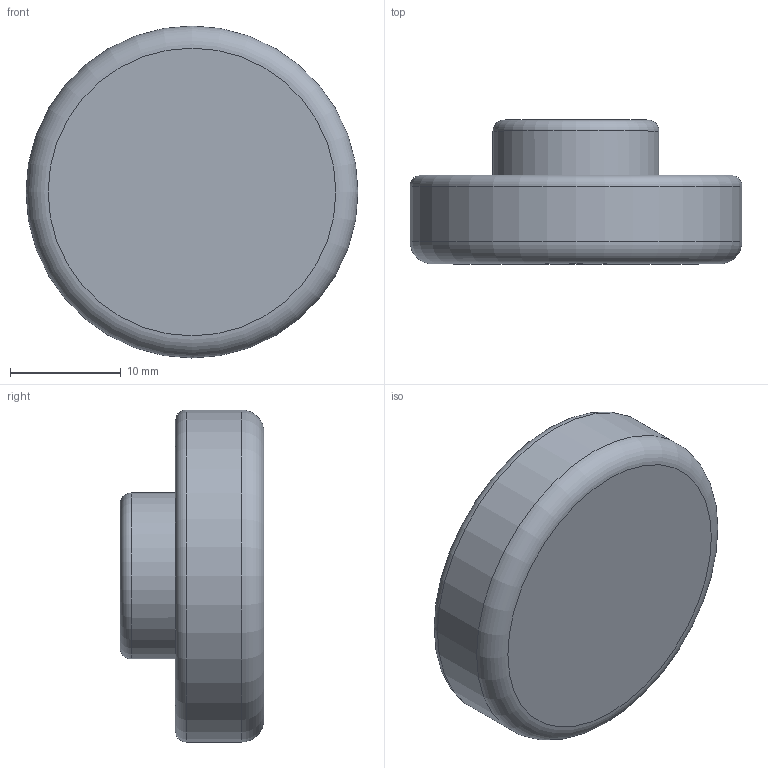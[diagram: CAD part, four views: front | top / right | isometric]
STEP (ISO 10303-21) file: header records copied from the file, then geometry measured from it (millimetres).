
FILE_DESCRIPTION(/* description */ (''),/* implementation_level */ '2;1');
FILE_NAME(/* name */ 'C:/Users/Stefano/Desktop/Thinkerlab/Progetti/Volume detector/Lock.step',/* time_stamp */ '2022-09-12T15:00:59+02:00',/* author */ (''),/* organization */ (''),/* preprocessor_version */ 'ST-DEVELOPER v19',/* originating_system */ 'Autodesk Translation Framework v11.7.0.108',/* authorisation */ '');
FILE_SCHEMA (('AUTOMOTIVE_DESIGN { 1 0 10303 214 3 1 1 }'));
Length unit declared in the file: millimetre
Products named in the file (1): Lock
Bounding box: 30 x 13 x 30 mm (x, y, z)
Volume: 5955 mm3; surface area: 2660.9 mm2
Topology: 1 solids, 1 shells, 31 faces, 79 edges, 52 vertices
Faces by surface type: cylinder 20, plane 5, torus 3, bspline 2, cone 1
Full cylindrical faces by diameter (mm): 6.779 x5, 8.17 x1, 15 x1, 30 x1
Entity records: 2213 total; most frequent: CARTESIAN_POINT 1485, ORIENTED_EDGE 158, DIRECTION 119, EDGE_CURVE 79, VERTEX_POINT 52, AXIS2_PLACEMENT_3D 50, B_SPLINE_CURVE_WITH_KNOTS 40, EDGE_LOOP 33
